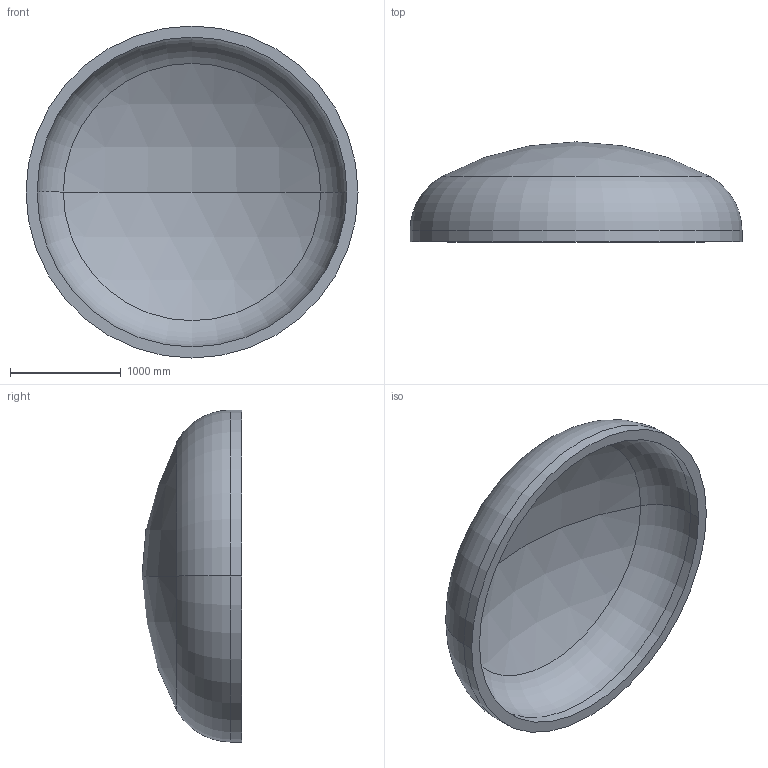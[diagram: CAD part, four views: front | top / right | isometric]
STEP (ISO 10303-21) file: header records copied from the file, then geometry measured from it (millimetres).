
FILE_DESCRIPTION (( 'STEP AP203' ), '1' );
FILE_NAME ('DIN 28013 Korbbogenform_-_Boden DIN 28013 - 3000 x 100 - I - s=100.step', '2016-07-01T18:06:56', ( '' ), ( '' ), 'SwSTEP 2.0', 'SolidWorks 2013', '' );
FILE_SCHEMA (( 'CONFIG_CONTROL_DESIGN' ));
Length unit declared in the file: millimetre
Products named in the file (1): DIN 28013 Korbbogenform_-_Boden DIN 28013 - 3000 x 100 - I - s=100
Bounding box: 3000 x 902.94 x 3000 mm (x, y, z)
Volume: 1027671288.3 mm3; surface area: 21485425 mm2
Topology: 1 solids, 1 shells, 13 faces, 24 edges, 14 vertices
Faces by surface type: torus 4, cylinder 4, sphere 4, plane 1
Entity records: 407 total; most frequent: DIRECTION 72, CARTESIAN_POINT 52, ORIENTED_EDGE 48, AXIS2_PLACEMENT_3D 34, EDGE_CURVE 24, CIRCLE 20, VERTEX_POINT 14, EDGE_LOOP 14
